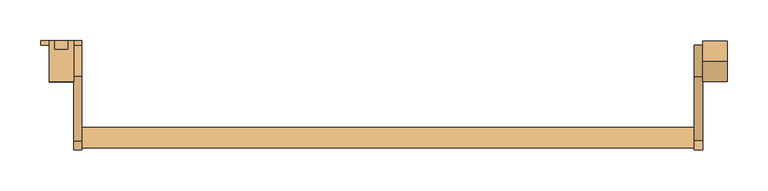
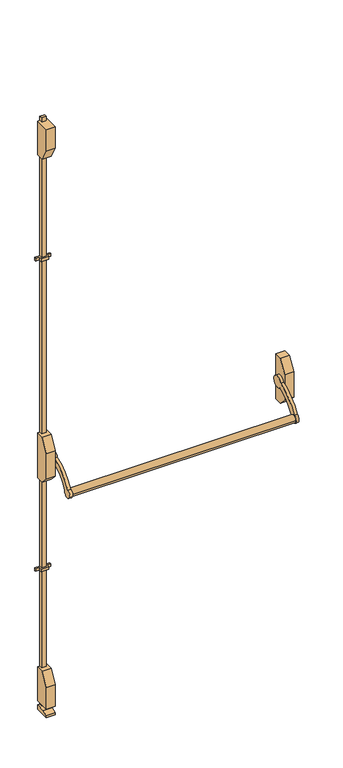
"""IFC4 building model written with IfcOpenShell, lengths in millimetres: door geometry, BarreAP : BarreAP."""

from ifc_helpers import new_model, si_unit, point, frame, frame_2d, origin, place, context, project, spatial, polyline, circle_curve, trimmed, segment, composite_curve, outline, extrude, faceted_brep, source, transform, mapped, element, save


def door_abd412e6(model_context):
    return source(origin(), model_context, "Body", "SolidModel", [
        extrude(outline(composite_curve([segment(trimmed(circle_curve(frame_2d((-118.8869712, 826.0898817)), 12.5), [point((-131.3869712, 826.0898817))], [point((-106.3869712, 826.0898817))], False, "CARTESIAN"), True, "CONTINUOUS"), segment(trimmed(circle_curve(frame_2d((-118.8869712, 826.0898817)), 12.5), [point((-106.3869712, 826.0898817))], [point((-131.3869712, 826.0898817))], False, "CARTESIAN"), True, "CONTINUOUS")], self_intersect=False)), frame((25.0, 0.0, 0.0), z_axis=(1.0, 0.0, 0.0), x_axis=(0.0, 1.0, 0.0)), (0.0, 0.0, 1.0), 750.0),
        extrude(outline(composite_curve([segment(trimmed(circle_curve(frame_2d((-25.0, 900.0)), 20.0), [point((-43.940256, 906.4239163))], [point((-39.9080609, 886.6677189))], False, "CARTESIAN"), True, "CONTINUOUS"), segment(trimmed(circle_curve(frame_2d((0.0, 773.4981705)), 120.0), [point((-39.9080609, 886.6677189))], [point((-104.960922, 831.663494))], True, "CARTESIAN"), True, "CONTINUOUS"), segment(trimmed(circle_curve(frame_2d((-118.8869712, 826.0898817)), 15.0), [point((-104.960922, 831.663494))], [point((-122.9027189, 840.5423476))], False, "CARTESIAN"), True, "CONTINUOUS"), segment(trimmed(circle_curve(frame_2d((0.0, 773.4981705)), 140.0), [point((-122.9027189, 840.5423476))], [point((-43.940256, 906.4239163))], False, "CARTESIAN"), True, "CONTINUOUS")], self_intersect=False)), frame((775.0, 0.0, 0.0), z_axis=(1.0, 0.0, 0.0), x_axis=(0.0, 1.0, 0.0)), (0.0, 0.0, 1.0), 10.0),
        extrude(outline(composite_curve([segment(trimmed(circle_curve(frame_2d((-25.0, 900.0)), 20.0), [point((-43.940256, 906.4239163))], [point((-39.9080609, 886.6677189))], False, "CARTESIAN"), True, "CONTINUOUS"), segment(trimmed(circle_curve(frame_2d((0.0, 773.4981705)), 120.0), [point((-39.9080609, 886.6677189))], [point((-104.960922, 831.663494))], True, "CARTESIAN"), True, "CONTINUOUS"), segment(trimmed(circle_curve(frame_2d((-118.8869712, 826.0898817)), 15.0), [point((-104.960922, 831.663494))], [point((-122.9027189, 840.5423476))], False, "CARTESIAN"), True, "CONTINUOUS"), segment(trimmed(circle_curve(frame_2d((0.0, 773.4981705)), 140.0), [point((-122.9027189, 840.5423476))], [point((-43.940256, 906.4239163))], False, "CARTESIAN"), True, "CONTINUOUS")], self_intersect=False)), frame((15.0, 0.0, 0.0), z_axis=(1.0, 0.0, 0.0), x_axis=(0.0, 1.0, 0.0)), (0.0, 0.0, 1.0), 10.0),
        extrude(outline(polyline([(-50.0, 936.6987298), (-25.0, 980.0), (0.0, 980.0), (0.0, 820.0), (-25.0, 820.0), (-50.0, 845.0), (-50.0, 936.6987298)])), frame((785.0, 0.0, 0.0), z_axis=(1.0, 0.0, 0.0), x_axis=(0.0, 1.0, 0.0)), (0.0, 0.0, 1.0), 30.0),
        extrude(outline(polyline([(-13.0, -5.0), (-25.0, -5.0), (-25.0, 0.0), (-8.0, 0.0), (-8.0, -10.0), (8.0, -10.0), (8.0, 0.0), (25.0, 0.0), (25.0, -5.0), (13.0, -5.0), (13.0, -15.0), (-13.0, -15.0), (-13.0, -5.0)])), frame((0.0, 0.0, 1595.0), z_axis=(0.0, 0.0, 1.0), x_axis=(1.0, 0.0, 0.0)), (0.0, 0.0, 1.0), 10.0),
        faceted_brep([(15.0, -50.0, 2008.3012702), (15.0, -25.0, 1965.0), (15.0, 0.0, 1965.0), (15.0, 0.0, 2085.0), (15.0, -50.0, 2085.0), (15.0, -50.0, 106.6987298), (15.0, -50.0, 30.0), (15.0, 0.0, 30.0), (15.0, 0.0, 150.0), (15.0, -25.0, 150.0), (-15.0, -50.0, 2008.3012702), (-15.0, -50.0, 2085.0), (-15.0, 0.0, 2085.0), (-15.0, 0.0, 1965.0), (-15.0, -25.0, 1965.0), (-15.0, -50.0, 106.6987298), (-15.0, -25.0, 150.0), (-15.0, 0.0, 150.0), (-15.0, 0.0, 30.0), (-15.0, -50.0, 30.0), (-8.0, 0.0, 1965.0), (-8.0, -10.0, 1965.0), (8.0, -10.0, 1965.0), (8.0, 0.0, 1965.0), (8.0, 0.0, 980.0), (15.0, 0.0, 980.0), (15.0, 0.0, 820.0), (8.0, 0.0, 820.0), (8.0, 0.0, 150.0), (8.0, 0.0, 30.0), (8.0, 0.0, 15.0), (-8.0, 0.0, 15.0), (-8.0, 0.0, 30.0), (-8.0, 0.0, 150.0), (-8.0, 0.0, 820.0), (-15.0, 0.0, 820.0), (-15.0, 0.0, 980.0), (-8.0, 0.0, 980.0), (-8.0, 0.0, 2085.0), (-8.0, 0.0, 2100.0), (8.0, 0.0, 2100.0), (8.0, 0.0, 2085.0), (8.0, -10.0, 2085.0), (-8.0, -10.0, 2085.0), (-8.0, -10.0, 30.0), (8.0, -10.0, 30.0), (8.0, -10.0, 150.0), (-8.0, -10.0, 150.0), (-8.0, -10.0, 2100.0), (8.0, -10.0, 2100.0), (8.0, -10.0, 15.0), (-8.0, -10.0, 15.0), (-8.0, -10.0, 980.0), (-8.0, -10.0, 820.0), (8.0, -10.0, 980.0), (8.0, -10.0, 820.0), (15.0, -25.0, 980.0), (15.0, -50.0, 936.6987298), (15.0, -50.0, 845.0), (15.0, -25.0, 820.0), (-15.0, -25.0, 980.0), (-15.0, -25.0, 820.0), (-15.0, -50.0, 845.0), (-15.0, -50.0, 936.6987298)], [[[0, 1, 2, 3, 4]], [[5, 6, 7, 8, 9]], [[10, 11, 12, 13, 14]], [[15, 16, 17, 18, 19]], [[1, 0, 10, 14]], [[2, 1, 14, 13, 20, 21, 22, 23]], [[3, 2, 23, 24, 25, 26, 27, 28, 8, 7, 29, 30, 31, 32, 18, 17, 33, 34, 35, 36, 37, 20, 13, 12, 38, 39, 40, 41]], [[4, 3, 41, 42, 43, 38, 12, 11]], [[0, 4, 11, 10]], [[6, 5, 15, 19]], [[7, 6, 19, 18, 32, 44, 45, 29]], [[9, 8, 28, 46, 47, 33, 17, 16]], [[5, 9, 16, 15]], [[40, 39, 48, 49]], [[30, 50, 51, 31]], [[21, 20, 37, 52]], [[33, 47, 53, 34]], [[48, 39, 38, 43]], [[31, 51, 44, 32]], [[22, 21, 52, 54]], [[47, 46, 55, 53]], [[49, 48, 43, 42]], [[51, 50, 45, 44]], [[23, 22, 54, 24]], [[46, 28, 27, 55]], [[40, 49, 42, 41]], [[50, 30, 29, 45]], [[56, 57, 58, 59, 26, 25]], [[60, 36, 35, 61, 62, 63]], [[57, 56, 60, 63]], [[58, 57, 63, 62]], [[59, 58, 62, 61]], [[26, 59, 61, 35, 34, 53, 55, 27]], [[56, 25, 24, 54, 52, 37, 36, 60]]]),
        extrude(outline(polyline([(-8.0, -10.0), (8.0, -10.0), (8.0, 0.0), (25.0, 0.0), (25.0, -5.0), (13.0, -5.0), (13.0, -15.0), (-13.0, -15.0), (-13.0, -5.0), (-25.0, -5.0), (-25.0, 0.0), (-8.0, 0.0), (-8.0, -10.0)])), frame((0.0, 0.0, 495.0), z_axis=(0.0, 0.0, 1.0), x_axis=(1.0, 0.0, 0.0)), (0.0, 0.0, 1.0), 10.0),
        extrude(outline(polyline([(-32.2782624, 15.0), (0.0, 15.0), (0.0, 0.0), (-50.0, 0.0), (-50.0, 6.7362181), (-32.2782624, 15.0)])), frame((-15.0, 0.0, 0.0), z_axis=(1.0, 0.0, 0.0), x_axis=(0.0, 1.0, 0.0)), (0.0, 0.0, 1.0), 30.0),
    ])


if __name__ == "__main__":
    model = new_model("IFC4")
    model_context = context("Model", 3, world=origin())
    ifc_project = project(units=[si_unit("LENGTHUNIT", "METRE", prefix="MILLI")], contexts=[model_context])
    site = spatial("IfcSite", under=ifc_project)
    building = spatial("IfcBuilding", under=site)
    placement = place(None, origin())
    door_shape = door_abd412e6(model_context)
    element("IfcDoor", 1, ObjectType="BarreAP : BarreAP", at=placement, inside=building, context=model_context, shape_type="MappedRepresentation", body=[
        mapped(door_shape, transform((0.0, 0.0, 0.0), x_axis=(1.0, 0.0, 0.0), y_axis=(0.0, 1.0, 0.0), z_axis=(0.0, 0.0, 1.0))),
    ])
    save(model, "model.ifc")
